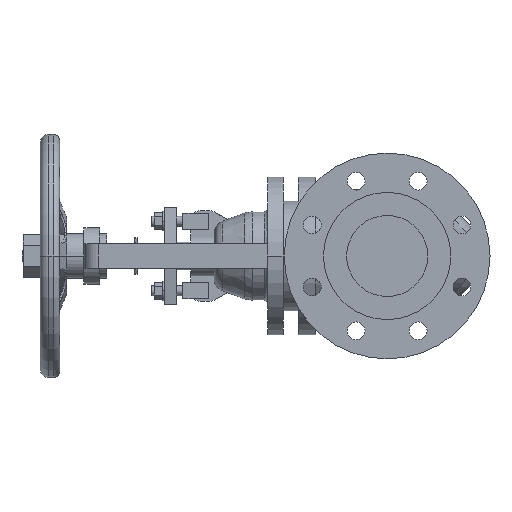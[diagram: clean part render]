
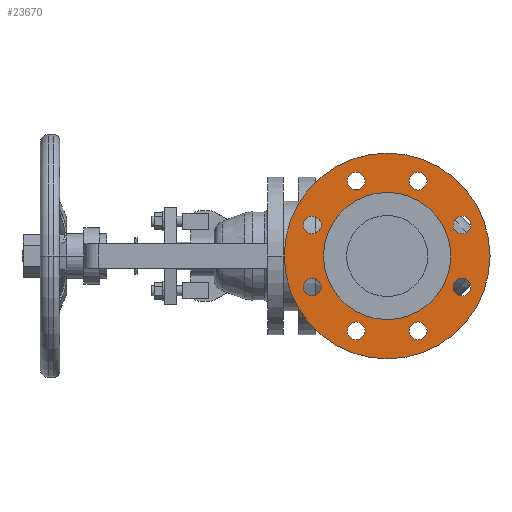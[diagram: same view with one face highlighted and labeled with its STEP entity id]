
A CAD part, left-side view. The second image highlights one B-rep face of the part: STEP entity #23670.
In plain terms, the highlighted planar face has unit normal (-1, 0, 0).
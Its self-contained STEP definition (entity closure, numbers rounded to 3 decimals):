
#4770=CARTESIAN_POINT('',(1.6,0.,-127.));
#4780=VERTEX_POINT('',#4770);
#4940=CARTESIAN_POINT('',(1.6,0.,127.));
#4950=VERTEX_POINT('',#4940);
#4980=CARTESIAN_POINT('',(1.6,0.,0.));
#4990=DIRECTION('',(1.,0.,0.));
#5000=DIRECTION('',(0.,0.,-1.));
#5010=AXIS2_PLACEMENT_3D('',#4980,#4990,#5000);
#5020=CIRCLE('',#5010,127.);
#5030=CARTESIAN_POINT('',(1.6,127.,0.));
#5040=VERTEX_POINT('',#5030);
#5050=EDGE_CURVE('',#5040,#4950,#5020,.T.);
#5070=EDGE_CURVE('',#4780,#5040,#5020,.T.);
#5300=CARTESIAN_POINT('',(1.6,38.268,
-81.388));
#5310=VERTEX_POINT('',#5300);
#5470=CARTESIAN_POINT('',(1.6,38.268,
-103.388));
#5480=VERTEX_POINT('',#5470);
#5510=CARTESIAN_POINT('',(1.6,38.268,
-92.388));
#5520=DIRECTION('',(-1.,0.,0.));
#5530=DIRECTION('',(0.,0.,-1.));
#5540=AXIS2_PLACEMENT_3D('',#5510,#5520,#5530);
#5550=CIRCLE('',#5540,11.);
#5560=EDGE_CURVE('',#5310,#5480,#5550,.T.);
#5790=CARTESIAN_POINT('',(1.6,-38.268,
-81.388));
#5800=VERTEX_POINT('',#5790);
#5960=CARTESIAN_POINT('',(1.6,-38.268,
-103.388));
#5970=VERTEX_POINT('',#5960);
#6000=CARTESIAN_POINT('',(1.6,-38.268,
-92.388));
#6010=DIRECTION('',(-1.,0.,0.));
#6020=DIRECTION('',(0.,0.,-1.));
#6030=AXIS2_PLACEMENT_3D('',#6000,#6010,#6020);
#6040=CIRCLE('',#6030,11.);
#6050=EDGE_CURVE('',#5800,#5970,#6040,.T.);
#6280=CARTESIAN_POINT('',(1.6,92.388,
-27.268));
#6290=VERTEX_POINT('',#6280);
#6450=CARTESIAN_POINT('',(1.6,92.388,
-49.268));
#6460=VERTEX_POINT('',#6450);
#6490=CARTESIAN_POINT('',(1.6,92.388,
-38.268));
#6500=DIRECTION('',(-1.,0.,0.));
#6510=DIRECTION('',(0.,0.,-1.));
#6520=AXIS2_PLACEMENT_3D('',#6490,#6500,#6510);
#6530=CIRCLE('',#6520,11.);
#6540=EDGE_CURVE('',#6290,#6460,#6530,.T.);
#6770=CARTESIAN_POINT('',(1.6,-92.388,
-49.268));
#6780=VERTEX_POINT('',#6770);
#6810=CARTESIAN_POINT('',(1.6,-92.388,
-38.268));
#6820=DIRECTION('',(-1.,0.,0.));
#6830=DIRECTION('',(0.,0.,-1.));
#6840=AXIS2_PLACEMENT_3D('',#6810,#6820,#6830);
#6850=CIRCLE('',#6840,11.);
#6860=CARTESIAN_POINT('',(1.6,-92.388,
-27.268));
#6870=VERTEX_POINT('',#6860);
#6880=EDGE_CURVE('',#6870,#6780,#6850,.T.);
#7260=CARTESIAN_POINT('',(1.6,92.388,
49.268));
#7270=VERTEX_POINT('',#7260);
#7430=CARTESIAN_POINT('',(1.6,92.388,
27.268));
#7440=VERTEX_POINT('',#7430);
#7470=CARTESIAN_POINT('',(1.6,92.388,
38.268));
#7480=DIRECTION('',(-1.,0.,0.));
#7490=DIRECTION('',(0.,0.,-1.));
#7500=AXIS2_PLACEMENT_3D('',#7470,#7480,#7490);
#7510=CIRCLE('',#7500,11.);
#7520=EDGE_CURVE('',#7270,#7440,#7510,.T.);
#7750=CARTESIAN_POINT('',(1.6,-92.388,
27.268));
#7760=VERTEX_POINT('',#7750);
#7790=CARTESIAN_POINT('',(1.6,-92.388,
38.268));
#7800=DIRECTION('',(-1.,0.,0.));
#7810=DIRECTION('',(0.,0.,-1.));
#7820=AXIS2_PLACEMENT_3D('',#7790,#7800,#7810);
#7830=CIRCLE('',#7820,11.);
#7840=CARTESIAN_POINT('',(1.6,-92.388,
49.268));
#7850=VERTEX_POINT('',#7840);
#7860=EDGE_CURVE('',#7850,#7760,#7830,.T.);
#8240=CARTESIAN_POINT('',(1.6,-38.268,
103.388));
#8250=VERTEX_POINT('',#8240);
#8410=CARTESIAN_POINT('',(1.6,-38.268,
81.388));
#8420=VERTEX_POINT('',#8410);
#8450=CARTESIAN_POINT('',(1.6,-38.268,
92.388));
#8460=DIRECTION('',(-1.,0.,0.));
#8470=DIRECTION('',(0.,0.,-1.));
#8480=AXIS2_PLACEMENT_3D('',#8450,#8460,#8470);
#8490=CIRCLE('',#8480,11.);
#8500=EDGE_CURVE('',#8250,#8420,#8490,.T.);
#8730=CARTESIAN_POINT('',(1.6,38.268,
103.388));
#8740=VERTEX_POINT('',#8730);
#8900=CARTESIAN_POINT('',(1.6,38.268,
81.388));
#8910=VERTEX_POINT('',#8900);
#8940=CARTESIAN_POINT('',(1.6,38.268,
92.388));
#8950=DIRECTION('',(-1.,0.,0.));
#8960=DIRECTION('',(0.,0.,-1.));
#8970=AXIS2_PLACEMENT_3D('',#8940,#8950,#8960);
#8980=CIRCLE('',#8970,11.);
#8990=EDGE_CURVE('',#8740,#8910,#8980,.T.);
#9220=CARTESIAN_POINT('',(1.6,78.5,0.));
#9230=VERTEX_POINT('',#9220);
#9390=CARTESIAN_POINT('',(1.6,-78.5,0.));
#9400=VERTEX_POINT('',#9390);
#9430=CARTESIAN_POINT('',(1.6,0.,0.));
#9440=DIRECTION('',(-1.,0.,0.));
#9450=DIRECTION('',(0.,1.,0.));
#9460=AXIS2_PLACEMENT_3D('',#9430,#9440,#9450);
#9470=CIRCLE('',#9460,78.5);
#9480=EDGE_CURVE('',#9230,#9400,#9470,.T.);
#23110=CARTESIAN_POINT('',(1.6,102.75,0.
));
#23120=DIRECTION('',(1.,0.,0.));
#23130=DIRECTION('',(0.,-1.,0.));
#23140=AXIS2_PLACEMENT_3D('',#23110,#23120,#23130);
#23150=PLANE('',#23140);
#23160=EDGE_CURVE('',#9400,#9230,#9470,.T.);
#23170=ORIENTED_EDGE('',*,*,#23160,.F.);
#23180=ORIENTED_EDGE('',*,*,#9480,.F.);
#23190=EDGE_LOOP('',(#23180,#23170));
#23200=FACE_BOUND('',#23190,.T.);
#23210=ORIENTED_EDGE('',*,*,#5050,.F.);
#23220=EDGE_CURVE('',#4950,#4780,#5020,.T.);
#23230=ORIENTED_EDGE('',*,*,#23220,.F.);
#23240=ORIENTED_EDGE('',*,*,#5070,.F.);
#23250=EDGE_LOOP('',(#23240,#23230,#23210));
#23260=FACE_OUTER_BOUND('',#23250,.T.);
#23270=EDGE_CURVE('',#5480,#5310,#5550,.T.);
#23280=ORIENTED_EDGE('',*,*,#23270,.F.);
#23290=ORIENTED_EDGE('',*,*,#5560,.F.);
#23300=EDGE_LOOP('',(#23290,#23280));
#23310=FACE_BOUND('',#23300,.T.);
#23320=EDGE_CURVE('',#5970,#5800,#6040,.T.);
#23330=ORIENTED_EDGE('',*,*,#23320,.F.);
#23340=ORIENTED_EDGE('',*,*,#6050,.F.);
#23350=EDGE_LOOP('',(#23340,#23330));
#23360=FACE_BOUND('',#23350,.T.);
#23370=EDGE_CURVE('',#6460,#6290,#6530,.T.);
#23380=ORIENTED_EDGE('',*,*,#23370,.F.);
#23390=ORIENTED_EDGE('',*,*,#6540,.F.);
#23400=EDGE_LOOP('',(#23390,#23380));
#23410=FACE_BOUND('',#23400,.T.);
#23420=EDGE_CURVE('',#6780,#6870,#6850,.T.);
#23430=ORIENTED_EDGE('',*,*,#23420,.F.);
#23440=ORIENTED_EDGE('',*,*,#6880,.F.);
#23450=EDGE_LOOP('',(#23440,#23430));
#23460=FACE_BOUND('',#23450,.T.);
#23470=EDGE_CURVE('',#7440,#7270,#7510,.T.);
#23480=ORIENTED_EDGE('',*,*,#23470,.F.);
#23490=ORIENTED_EDGE('',*,*,#7520,.F.);
#23500=EDGE_LOOP('',(#23490,#23480));
#23510=FACE_BOUND('',#23500,.T.);
#23520=EDGE_CURVE('',#7760,#7850,#7830,.T.);
#23530=ORIENTED_EDGE('',*,*,#23520,.F.);
#23540=ORIENTED_EDGE('',*,*,#7860,.F.);
#23550=EDGE_LOOP('',(#23540,#23530));
#23560=FACE_BOUND('',#23550,.T.);
#23570=EDGE_CURVE('',#8420,#8250,#8490,.T.);
#23580=ORIENTED_EDGE('',*,*,#23570,.F.);
#23590=ORIENTED_EDGE('',*,*,#8500,.F.);
#23600=EDGE_LOOP('',(#23590,#23580));
#23610=FACE_BOUND('',#23600,.T.);
#23620=EDGE_CURVE('',#8910,#8740,#8980,.T.);
#23630=ORIENTED_EDGE('',*,*,#23620,.F.);
#23640=ORIENTED_EDGE('',*,*,#8990,.F.);
#23650=EDGE_LOOP('',(#23640,#23630));
#23660=FACE_BOUND('',#23650,.T.);
#23670=ADVANCED_FACE('',(#23200,#23260,#23310,#23360,#23410,#23460,
#23510,#23560,#23610,#23660),#23150,.F.);
